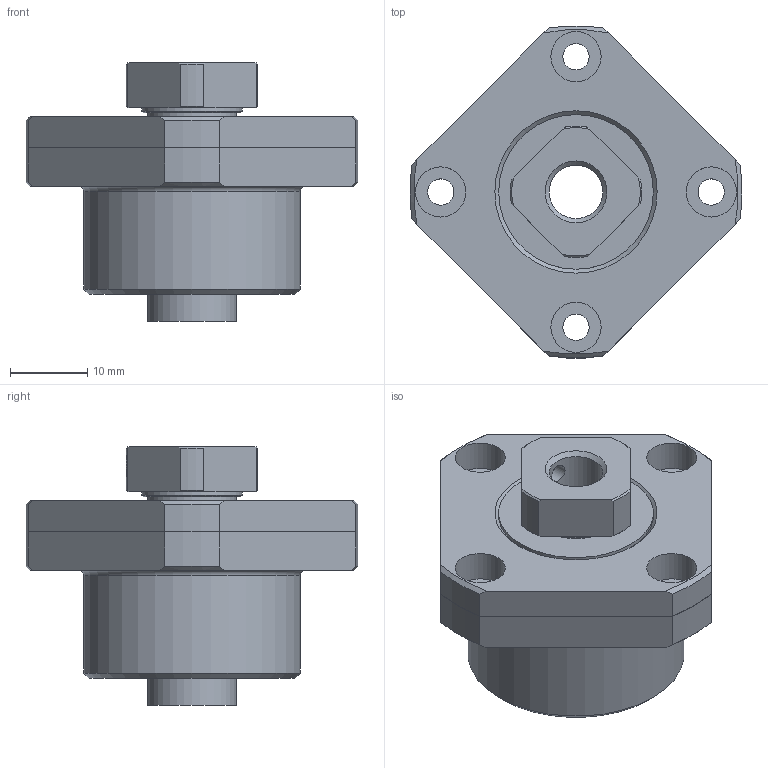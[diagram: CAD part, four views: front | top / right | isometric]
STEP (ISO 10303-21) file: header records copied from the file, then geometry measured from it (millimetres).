
FILE_DESCRIPTION(/* description */ ('STEP AP214'),/* implementation_level */ '2;1');
FILE_NAME(/* name */ 'FK8______CAD_NO_Yes-FS',/* time_stamp */ '2026-09-17T13:19:14+02:00',/* author */ ('License CC BY-ND 4.0'),/* organization */ ('CADENAS'),/* preprocessor_version */ 'ST-DEVELOPER v20',/* originating_system */ 'PARTsolutions',/* authorisation */ ' ');
FILE_SCHEMA (('AUTOMOTIVE_DESIGN {1 0 10303 214 3 1 1}'));
Length unit declared in the file: millimetre
Products named in the file (4): FK8______CAD_NO_Yes-FS; FK 8-FS-1; FK 8collar; RN 8
Assembly tree (4 placements, depth 2):
  FK8______CAD_NO_Yes-FS
    FK 8-FS-1
    FK 8collar  x2
    RN 8
Bounding box: 42.93 x 42.93 x 33.5 mm (x, y, z)
Volume: 18475.9 mm3; surface area: 7725.4 mm2
Topology: 4 solids, 4 shells, 107 faces, 244 edges, 160 vertices
Faces by surface type: plane 45, cylinder 38, cone 23, torus 1
Full cylindrical faces by diameter (mm): 2.459 x1, 3 x1, 3.4 x4, 6.5 x4, 6.917 x1, 8 x3, 11.5 x4, 13 x1, 20 x2, 28 x1
Entity records: 2987 total; most frequent: CARTESIAN_POINT 590, DIRECTION 486, ORIENTED_EDGE 420, EDGE_CURVE 210, AXIS2_PLACEMENT_3D 202, EDGE_LOOP 160, FACE_BOUND 160, VERTEX_POINT 156
